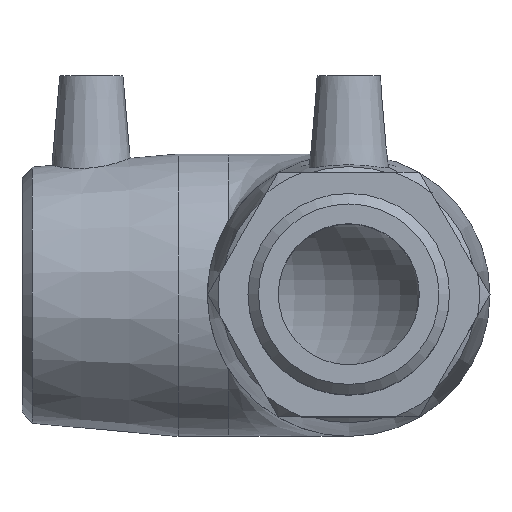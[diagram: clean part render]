
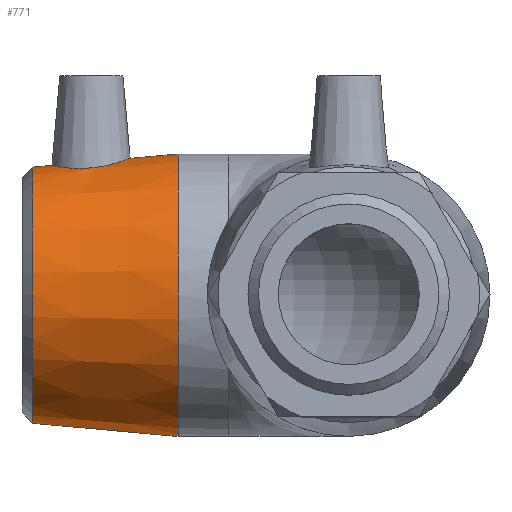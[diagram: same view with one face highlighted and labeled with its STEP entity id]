
A CAD part, top view. The second image highlights one B-rep face of the part: STEP entity #771.
In plain terms, the highlighted conical face has half-angle 5.173 degrees and reference radius 31.825 mm.
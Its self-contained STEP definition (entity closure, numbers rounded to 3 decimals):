
#17=B_SPLINE_CURVE_WITH_KNOTS('',3,(#1342,#1343,#1344,#1345,#1346,#1347,
#1348,#1349,#1350,#1351,#1352,#1353,#1354,#1355,#1356,#1357,#1358,#1359,
#1360,#1361,#1362,#1363,#1364,#1365,#1366,#1367,#1368,#1369,#1370,#1371,
#1372,#1373,#1374,#1375),.UNSPECIFIED.,.T.,.F.,(4,2,2,2,2,2,2,2,2,2,2,2,
2,2,2,2,4),(0.,0.346,0.691,1.039,1.387,
1.735,2.083,2.428,2.774,3.141,
3.508,3.868,4.227,4.587,4.947,
5.314,5.681),.UNSPECIFIED.);
#123=FACE_BOUND('',#248,.T.);
#124=FACE_BOUND('',#249,.T.);
#180=FACE_OUTER_BOUND('',#247,.T.);
#247=EDGE_LOOP('',(#642));
#248=EDGE_LOOP('',(#643));
#249=EDGE_LOOP('',(#644));
#333=CIRCLE('',#854,30.375);
#334=CIRCLE('',#856,33.5);
#407=VERTEX_POINT('',#1336);
#408=VERTEX_POINT('',#1339);
#409=VERTEX_POINT('',#1341);
#501=EDGE_CURVE('',#407,#407,#333,.T.);
#502=EDGE_CURVE('',#408,#408,#334,.T.);
#503=EDGE_CURVE('',#409,#409,#17,.T.);
#642=ORIENTED_EDGE('',*,*,#502,.F.);
#643=ORIENTED_EDGE('',*,*,#503,.T.);
#644=ORIENTED_EDGE('',*,*,#501,.F.);
#738=CONICAL_SURFACE('',#855,31.825,5.173);
#771=ADVANCED_FACE('',(#180,#123,#124),#738,.T.);
#854=AXIS2_PLACEMENT_3D('',#1337,#1028,#1029);
#855=AXIS2_PLACEMENT_3D('',#1338,#1030,#1031);
#856=AXIS2_PLACEMENT_3D('',#1340,#1032,#1033);
#1028=DIRECTION('center_axis',(-1.,0.,0.));
#1029=DIRECTION('ref_axis',(0.,-1.,0.));
#1030=DIRECTION('center_axis',(1.,0.,0.));
#1031=DIRECTION('ref_axis',(0.,1.,0.));
#1032=DIRECTION('center_axis',(1.,0.,0.));
#1033=DIRECTION('ref_axis',(0.,0.,-1.));
#1336=CARTESIAN_POINT('',(-75.01,30.375,0.));
#1337=CARTESIAN_POINT('Origin',(-75.01,0.,0.));
#1338=CARTESIAN_POINT('Origin',(-59.,0.,0.));
#1339=CARTESIAN_POINT('',(-40.5,33.5,0.));
#1340=CARTESIAN_POINT('Origin',(-40.5,0.,0.));
#1341=CARTESIAN_POINT('',(-61.374,30.179,9.404));
#1342=CARTESIAN_POINT('Ctrl Pts',(-61.374,30.179,9.404));
#1343=CARTESIAN_POINT('Ctrl Pts',(-62.522,30.08,9.373));
#1344=CARTESIAN_POINT('Ctrl Pts',(-63.741,30.049,9.11));
#1345=CARTESIAN_POINT('Ctrl Pts',(-65.972,30.123,8.117));
#1346=CARTESIAN_POINT('Ctrl Pts',(-66.984,30.224,7.387));
#1347=CARTESIAN_POINT('Ctrl Pts',(-68.577,30.435,5.726));
#1348=CARTESIAN_POINT('Ctrl Pts',(-69.267,30.56,4.68));
#1349=CARTESIAN_POINT('Ctrl Pts',(-70.181,30.741,2.397));
#1350=CARTESIAN_POINT('Ctrl Pts',(-70.405,30.792,1.16));
#1351=CARTESIAN_POINT('Ctrl Pts',(-70.405,30.792,-1.16));
#1352=CARTESIAN_POINT('Ctrl Pts',(-70.181,30.741,-2.397));
#1353=CARTESIAN_POINT('Ctrl Pts',(-69.267,30.56,-4.68));
#1354=CARTESIAN_POINT('Ctrl Pts',(-68.577,30.435,-5.726));
#1355=CARTESIAN_POINT('Ctrl Pts',(-66.984,30.224,-7.387));
#1356=CARTESIAN_POINT('Ctrl Pts',(-65.972,30.123,-8.117));
#1357=CARTESIAN_POINT('Ctrl Pts',(-63.741,30.049,-9.11));
#1358=CARTESIAN_POINT('Ctrl Pts',(-62.522,30.08,-9.373));
#1359=CARTESIAN_POINT('Ctrl Pts',(-60.156,30.284,-9.436));
#1360=CARTESIAN_POINT('Ctrl Pts',(-58.867,30.479,-9.213));
#1361=CARTESIAN_POINT('Ctrl Pts',(-56.509,30.972,-8.26));
#1362=CARTESIAN_POINT('Ctrl Pts',(-55.439,31.266,-7.529));
#1363=CARTESIAN_POINT('Ctrl Pts',(-53.767,31.776,-5.852));
#1364=CARTESIAN_POINT('Ctrl Pts',(-53.045,32.028,-4.797));
#1365=CARTESIAN_POINT('Ctrl Pts',(-52.082,32.378,-2.471));
#1366=CARTESIAN_POINT('Ctrl Pts',(-51.842,32.473,-1.199));
#1367=CARTESIAN_POINT('Ctrl Pts',(-51.842,32.473,1.199));
#1368=CARTESIAN_POINT('Ctrl Pts',(-52.082,32.378,2.471));
#1369=CARTESIAN_POINT('Ctrl Pts',(-53.045,32.028,4.797));
#1370=CARTESIAN_POINT('Ctrl Pts',(-53.767,31.776,5.852));
#1371=CARTESIAN_POINT('Ctrl Pts',(-55.439,31.266,7.529));
#1372=CARTESIAN_POINT('Ctrl Pts',(-56.509,30.972,8.26));
#1373=CARTESIAN_POINT('Ctrl Pts',(-58.867,30.479,9.213));
#1374=CARTESIAN_POINT('Ctrl Pts',(-60.156,30.284,9.436));
#1375=CARTESIAN_POINT('Ctrl Pts',(-61.374,30.179,9.404));
